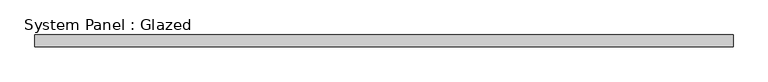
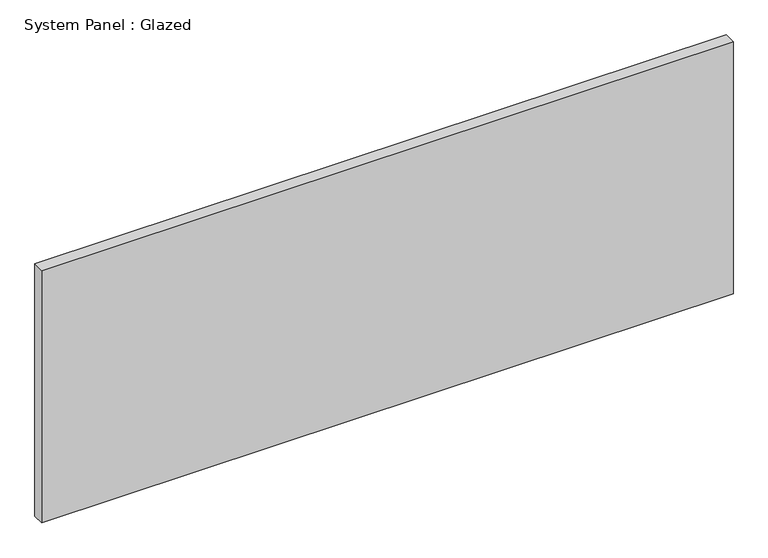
"""IFC4 building model written with IfcOpenShell, lengths in millimetres: plate geometry, System Panel : Glazed."""

from ifc_helpers import new_model, si_unit, origin, origin_with_axes, place, context, project, spatial, polyline, outline, extrude, source, transform, mapped, element, save


def system_panel_glazed_2de029ef(model_context):
    return source(origin(), model_context, "Body", "SweptSolid", [
        extrude(outline(polyline([(745.0, -12.5), (-745.0, -12.5), (-745.0, 12.5), (745.0, 12.5), (745.0, -12.5)])), origin_with_axes(), (0.0, 0.0, 1.0), 575.0),
    ])


if __name__ == "__main__":
    model = new_model("IFC4")
    model_context = context("Model", 3, world=origin())
    ifc_project = project(units=[si_unit("LENGTHUNIT", "METRE", prefix="MILLI")], contexts=[model_context])
    site = spatial("IfcSite", under=ifc_project)
    building = spatial("IfcBuilding", under=site)
    placement = place(None, origin())
    system_panel_glazed_shape = system_panel_glazed_2de029ef(model_context)
    element("IfcPlate", 1, ObjectType="System Panel : Glazed", at=placement, inside=building, context=model_context, shape_type="MappedRepresentation", body=[
        mapped(system_panel_glazed_shape, transform((0.0, 0.0, 0.0), x_axis=(1.0, 0.0, 0.0), y_axis=(0.0, 1.0, 0.0), z_axis=(0.0, 0.0, 1.0))),
    ])
    save(model, "model.ifc")
